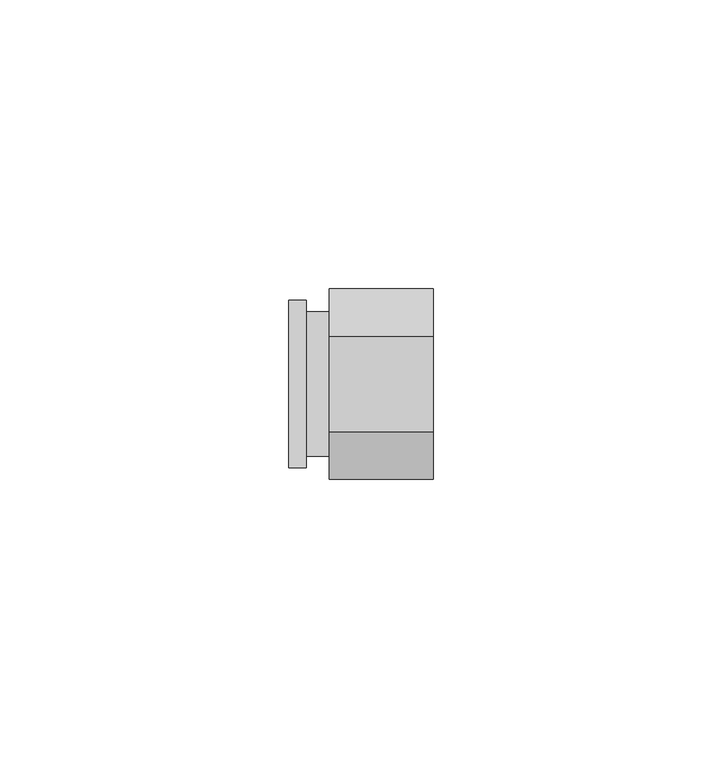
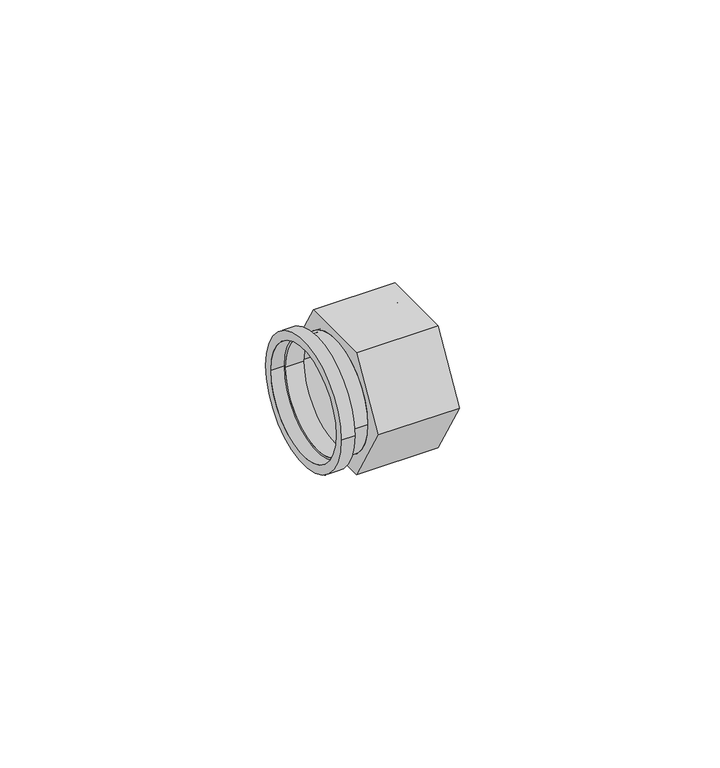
"""IFC4 building model written with IfcOpenShell, lengths in millimetres: pipe fitting geometry, БИР ПЕКС_КМП_Соединитель_Резьба_Наружная : Соединитель прямой с наружной резьбой_КМП."""

from ifc_helpers import new_model, si_unit, point, frame, origin, origin_2d, place, context, project, spatial, polyline, circle_curve, trimmed, segment, composite_curve, outline, extrude, source, transform, mapped, element, save


def pipe_fitting_0f83558a(model_context):
    return source(origin(), model_context, "Body", "SweptSolid", [
        extrude(outline(polyline([(-8.25, -14.2894192), (-16.5, 0.0), (-8.25, 14.2894192), (8.25, 14.2894192), (16.5, 0.0), (8.25, -14.2894192), (-8.25, -14.2894192)]), holes=[composite_curve([segment(trimmed(circle_curve(origin_2d(), 12.5), [point((-12.5, 0.0))], [point((12.5, 0.0))], True, "CARTESIAN"), True, "CONTINUOUS"), segment(trimmed(circle_curve(origin_2d(), 12.5), [point((12.5, 0.0))], [point((-12.5, 0.0))], True, "CARTESIAN"), True, "CONTINUOUS")], self_intersect=False)]), frame((0.0, 0.0, 0.0), z_axis=(1.0, 0.0, 0.0), x_axis=(0.0, 1.0, 0.0)), (0.0, 0.0, 1.0), 18.0),
        extrude(outline(composite_curve([segment(trimmed(circle_curve(origin_2d(), 12.5), [point((-12.5, 0.0))], [point((12.5, 0.0))], False, "CARTESIAN"), True, "CONTINUOUS"), segment(trimmed(circle_curve(origin_2d(), 12.5), [point((12.5, 0.0))], [point((-12.5, 0.0))], False, "CARTESIAN"), True, "CONTINUOUS")], self_intersect=False), holes=[composite_curve([segment(trimmed(circle_curve(origin_2d(), 12.0), [point((-12.0, 0.0))], [point((12.0, 0.0))], True, "CARTESIAN"), True, "CONTINUOUS"), segment(trimmed(circle_curve(origin_2d(), 12.0), [point((12.0, 0.0))], [point((-12.0, 0.0))], True, "CARTESIAN"), True, "CONTINUOUS")], self_intersect=False)]), frame((-4.0, 0.0, 0.0), z_axis=(1.0, 0.0, 0.0), x_axis=(0.0, 1.0, 0.0)), (0.0, 0.0, 1.0), 4.0),
        extrude(outline(composite_curve([segment(trimmed(circle_curve(origin_2d(), 14.5), [point((-14.5, 0.0))], [point((14.5, 0.0))], False, "CARTESIAN"), True, "CONTINUOUS"), segment(trimmed(circle_curve(origin_2d(), 14.5), [point((14.5, 0.0))], [point((-14.5, 0.0))], False, "CARTESIAN"), True, "CONTINUOUS")], self_intersect=False), holes=[composite_curve([segment(trimmed(circle_curve(origin_2d(), 12.5), [point((-12.5, 0.0))], [point((12.5, 0.0))], True, "CARTESIAN"), True, "CONTINUOUS"), segment(trimmed(circle_curve(origin_2d(), 12.5), [point((12.5, 0.0))], [point((-12.5, 0.0))], True, "CARTESIAN"), True, "CONTINUOUS")], self_intersect=False)]), frame((-7.0, 0.0, 0.0), z_axis=(1.0, 0.0, 0.0), x_axis=(0.0, 1.0, 0.0)), (0.0, 0.0, 1.0), 3.0),
    ])


if __name__ == "__main__":
    model = new_model("IFC4")
    model_context = context("Model", 3, world=origin())
    ifc_project = project(units=[si_unit("LENGTHUNIT", "METRE", prefix="MILLI")], contexts=[model_context])
    site = spatial("IfcSite", under=ifc_project)
    building = spatial("IfcBuilding", under=site)
    placement = place(None, origin())
    pipe_fitting_shape = pipe_fitting_0f83558a(model_context)
    element("IfcPipeFitting", 1, ObjectType="БИР ПЕКС_КМП_Соединитель_Резьба_Наружная : Соединитель прямой с наружной резьбой_КМП", at=placement, inside=building, context=model_context, shape_type="MappedRepresentation", body=[
        mapped(pipe_fitting_shape, transform((0.0, 0.0, 0.0), x_axis=(1.0, 0.0, 0.0), y_axis=(0.0, 1.0, 0.0), z_axis=(0.0, 0.0, 1.0))),
    ])
    save(model, "model.ifc")
